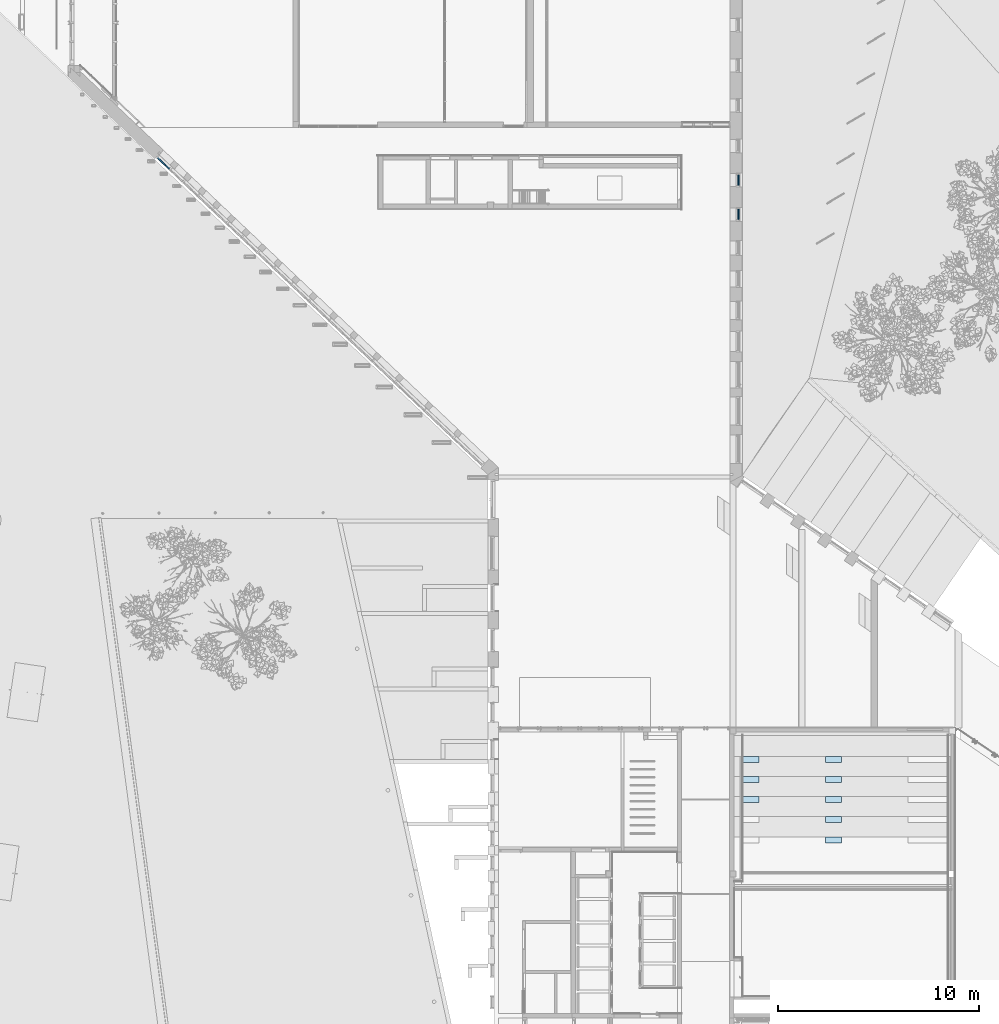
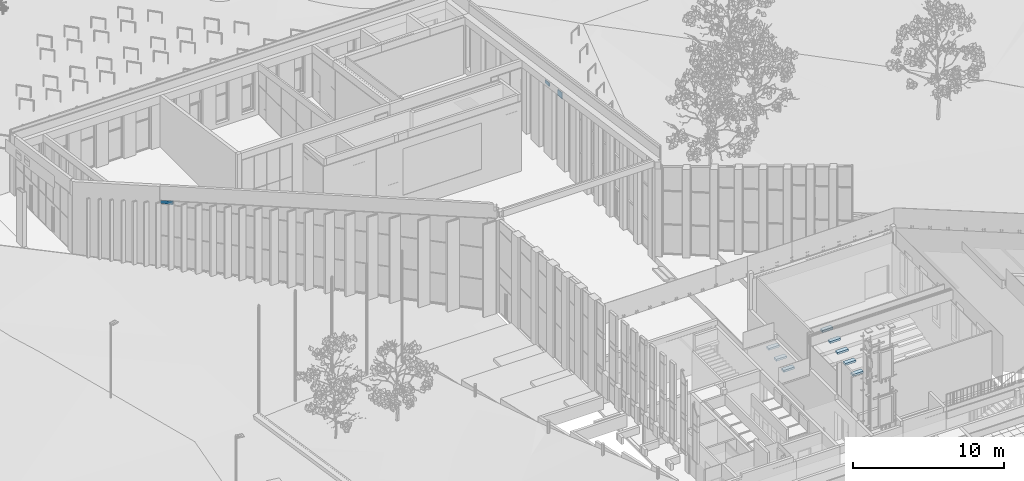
# One storey, part 108 of 246: 8 slabs, 3 plates, 3 elements without a shape of their own.
"""IFC2X3 building model written with IfcOpenShell, lengths in millimetres."""

from ifc_helpers import new_model, entity, si_unit, converted_unit, derived_unit, money_unit, direction, frame, origin_with_axes, place, context, subcontext, project, spatial, faceted_brep, material, type_object, element, aggregate, save


model = new_model("IFC2X3")

# Units and contexts
model_context = context("Model", 3, precision=0.01, world=origin_with_axes(), true_north=direction((0.0, 1.0)))
body_context = subcontext(model_context, "Body", "Model", "MODEL_VIEW")
ifc_project = project(units=[si_unit("LENGTHUNIT", "METRE", prefix="MILLI"), si_unit("AREAUNIT", "SQUARE_METRE"), si_unit("VOLUMEUNIT", "CUBIC_METRE"), converted_unit("PLANEANGLEUNIT", "DEGREE", entity("IfcPlaneAngleMeasure", 0.0174532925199), si_unit("PLANEANGLEUNIT", "RADIAN"), dimensions=[0, 0, 0, 0, 0, 0, 0]), si_unit("SOLIDANGLEUNIT", "STERADIAN"), money_unit("EUR"), converted_unit("TIMEUNIT", "Year", entity("IfcTimeMeasure", 31556926.0), si_unit("TIMEUNIT", "SECOND"), dimensions=[0, 0, 1, 0, 0, 0, 0]), si_unit("MASSUNIT", "GRAM", prefix="KILO"), si_unit("THERMODYNAMICTEMPERATUREUNIT", "DEGREE_CELSIUS"), si_unit("LUMINOUSINTENSITYUNIT", "LUMEN"), si_unit("ENERGYUNIT", "JOULE", prefix="MEGA"), derived_unit("THERMALCONDUCTANCEUNIT", [(si_unit("POWERUNIT", "WATT"), 1), (si_unit("LENGTHUNIT", "METRE"), -1), (si_unit("THERMODYNAMICTEMPERATUREUNIT", "KELVIN"), -1)]), derived_unit("SPECIFICHEATCAPACITYUNIT", [(si_unit("ENERGYUNIT", "JOULE"), 1), (si_unit("MASSUNIT", "GRAM", prefix="KILO"), -1), (si_unit("THERMODYNAMICTEMPERATUREUNIT", "KELVIN"), -1)]), derived_unit("MASSDENSITYUNIT", [(si_unit("MASSUNIT", "GRAM", prefix="KILO"), 1), (si_unit("VOLUMEUNIT", "CUBIC_METRE"), -1)])], contexts=[model_context])

# Site, building, storey
site_placement = place(None, origin_with_axes())
site = spatial("IfcSite", under=ifc_project, at=site_placement, Name="L.Koidula tn 11b", CompositionType="ELEMENT")
building_placement = place(site_placement, origin_with_axes())
building = spatial("IfcBuilding", under=site, at=building_placement, Name="Rakvere Riigigümnaasium", CompositionType="ELEMENT")
storey_placement = place(building_placement, origin_with_axes())
storey = spatial("IfcBuildingStorey", under=building, at=storey_placement, Name="1.korrus 0,00", CompositionType="ELEMENT", Elevation=0.0)

# Curtain wall, plate
curtain_wall_type = type_object("IfcCurtainWallType", Name="Curtain Wall Type", PredefinedType="NOTDEFINED")
curtain_wall_1_placement = place(storey_placement, frame((33997.0353268, 45217.6604975, 0.0), z_axis=(0.0, 0.0, 1.0), x_axis=(1.0, 0.0, 0.0)))
curtain_wall_1 = element("IfcCurtainWall", 1, at=curtain_wall_1_placement, inside=storey, type_object=curtain_wall_type, Name="KLF-02")
ifc_material_1 = material(Name="Klaaspakett 3x")
plate_type_1 = type_object("IfcPlateType", Name="Distinct Panel 851 x 319 x 54", PredefinedType="CURTAIN_PANEL")
plate_1_placement = place(curtain_wall_1_placement, frame((-15136.2986508, 14339.3362531, 5112.49779371), z_axis=(0.0, 0.0, 1.0), x_axis=(0.725960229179, -0.687736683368, 0.0)))
plate_1 = element("IfcPlate", 2, at=plate_1_placement, type_object=plate_type_1, material=ifc_material_1, Name="KLF-04-Klaasid", ObjectType="CURTAIN_PANEL", context=body_context, shape_type="Brep", body=[
    faceted_brep([(438.038389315, 27.0, 168.507753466), (438.038389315, -27.0, 168.507753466), (438.038389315, -27.0, -150.497476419), (438.038389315, 27.0, -150.497476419), (-413.038393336, 27.0, 84.5933319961), (-413.038393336, -27.0, 84.5933319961), (-413.038393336, -27.0, -150.497476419), (-413.038393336, 27.0, -150.497476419)], [[[0, 1, 2, 3]], [[4, 5, 1, 0]], [[1, 5, 6, 2]], [[3, 2, 6, 7]], [[0, 3, 7, 4]], [[7, 6, 5, 4]]]),
])
aggregate(curtain_wall_1, [plate_1])

curtain_wall_2_placement = place(storey_placement, frame((47433.9999935, 57020.45466, -7.96066081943e-05), z_axis=(0.0, 0.0, 1.0), x_axis=(1.0, 0.0, 0.0)))
curtain_wall_2 = element("IfcCurtainWall", 3, at=curtain_wall_2_placement, inside=storey, type_object=curtain_wall_type, Name="KLF-07-08")
plate_type_2 = type_object("IfcPlateType", Name="Distinct Panel 576 x 459 x 54", PredefinedType="CURTAIN_PANEL")
plate_2_placement = place(curtain_wall_2_placement, frame((0.0, 0.0, 5374.88988791), z_axis=(0.0, 0.0, 1.0), x_axis=(0.0, 1.0, 0.0)))
plate_2 = element("IfcPlate", 4, at=plate_2_placement, type_object=plate_type_2, material=ifc_material_1, Name="KLF-07-08-Klaasid", ObjectType="CURTAIN_PANEL", context=body_context, shape_type="Brep", body=[
    faceted_brep([(-287.999994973, 27.0, 278.520234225), (-287.999994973, -27.0, 278.520234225), (287.99999948, -27.0, 196.513148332), (287.99999948, 27.0, 196.513148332), (-287.999994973, 27.0, -262.889805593), (-287.999994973, -27.0, -262.889805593), (287.999989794, -27.0, -262.889805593), (287.999989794, 27.0, -262.889805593)], [[[0, 1, 2, 3]], [[4, 5, 1, 0]], [[1, 5, 6, 2]], [[3, 2, 6, 7]], [[0, 3, 7, 4]], [[7, 6, 5, 4]]]),
])
aggregate(curtain_wall_2, [plate_2])

curtain_wall_3_placement = place(storey_placement, frame((47433.9999935, 58720.4546292, -7.96830551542e-05), z_axis=(0.0, 0.0, 1.0), x_axis=(1.0, 0.0, 0.0)))
curtain_wall_3 = element("IfcCurtainWall", 5, at=curtain_wall_3_placement, inside=storey, type_object=curtain_wall_type, Name="KLF-07-09")
plate_type_3 = type_object("IfcPlateType", Name="Distinct Panel 576 x 217 x 54", PredefinedType="CURTAIN_PANEL")
plate_3_placement = place(curtain_wall_3_placement, frame((0.0, 3.91180350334e-05, 5253.87245895), z_axis=(0.0, 0.0, 1.0), x_axis=(0.0, 1.0, 0.0)))
plate_3 = element("IfcPlate", 6, at=plate_3_placement, type_object=plate_type_3, material=ifc_material_1, Name="KLF-07-09_Klaasid", ObjectType="CURTAIN_PANEL", context=body_context, shape_type="Brep", body=[
    faceted_brep([(-288.000001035, 27.0, 157.502811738), (-288.000001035, -27.0, 157.502811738), (287.999987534, -27.0, 75.4957142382), (287.999987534, 27.0, 75.4957142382), (-287.99999135, 27.0, -141.872376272), (-287.99999135, -27.0, -141.872376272), (288.000006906, -27.0, -141.872376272), (288.000006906, 27.0, -141.872376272)], [[[0, 1, 2, 3]], [[4, 5, 1, 0]], [[1, 5, 6, 2]], [[3, 2, 6, 7]], [[0, 3, 7, 4]], [[7, 6, 5, 4]]]),
])
aggregate(curtain_wall_3, [plate_3])

# Slabs
ifc_material_2 = material(Name="Betoon")
slab_type = type_object("IfcSlabType", Name="Betoon 160", PredefinedType="NOTDEFINED")
for number, where, z_axis, x_axis in (
    (7, (52560.5793131, 25795.4561877, 139.5), (0.0, 0.0, 1.0), (1.0, 0.0, 0.0)),
    (8, (52560.5793131, 26795.4555287, 418.993831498), (0.0, 0.0, 1.0), (1.0, 0.0, 0.0)),
):
    element("IfcSlab", number, at=place(storey_placement, frame(where, z_axis=z_axis, x_axis=x_axis)), inside=storey, type_object=slab_type, material=ifc_material_2, Name="Põrand pinnasel", PredefinedType="NOTDEFINED", context=body_context, shape_type="Brep", body=[
        faceted_brep([(0.0, 0.0, 0.0), (0.0, 0.0, -160.0), (0.0, 300.0, -160.0), (0.0, 300.0, 0.0), (-810.0, 0.0, 0.0), (-810.0, 0.0, -160.0), (-810.0, 300.0, -160.0), (-810.0, 300.0, 0.0)], [[[0, 1, 2, 3]], [[4, 5, 1, 0]], [[2, 1, 5, 6]], [[3, 2, 6, 7]], [[4, 0, 3, 7]], [[7, 6, 5, 4]]]),
    ])
slab_1_placement = place(storey_placement, frame((48455.5793131, 27795.4555287, 697.993831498), z_axis=(0.0, 0.0, 1.0), x_axis=(1.0, 0.0, 0.0)))
element("IfcSlab", 9, at=slab_1_placement, inside=storey, type_object=slab_type, material=ifc_material_2, Name="Põrand pinnasel", PredefinedType="NOTDEFINED", context=body_context, shape_type="Brep", body=[
    faceted_brep([(0.0, 0.0, 0.0), (0.0, 0.0, -160.0), (0.0, 300.0, -160.0), (0.0, 300.0, 0.0), (-810.001816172, 0.0, 0.0), (-810.001816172, 0.0, -160.0), (-810.001816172, 300.0, -160.0), (-810.001816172, 300.0, 0.0)], [[[0, 1, 2, 3]], [[4, 5, 1, 0]], [[2, 1, 5, 6]], [[3, 2, 6, 7]], [[4, 0, 3, 7]], [[7, 6, 5, 4]]]),
])
slab_2_placement = place(storey_placement, frame((52560.5793131, 27795.4555287, 697.993831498), z_axis=(0.0, 0.0, 1.0), x_axis=(1.0, 0.0, 0.0)))
element("IfcSlab", 10, at=slab_2_placement, inside=storey, type_object=slab_type, material=ifc_material_2, Name="Põrand pinnasel", PredefinedType="NOTDEFINED", context=body_context, shape_type="Brep", body=[
    faceted_brep([(0.0, 0.0, 0.0), (0.0, 0.0, -160.0), (0.0, 300.0, -160.0), (0.0, 300.0, 0.0), (-810.0, 0.0, 0.0), (-810.0, 0.0, -160.0), (-810.0, 300.0, -160.0), (-810.0, 300.0, 0.0)], [[[0, 1, 2, 3]], [[4, 5, 1, 0]], [[2, 1, 5, 6]], [[3, 2, 6, 7]], [[4, 0, 3, 7]], [[7, 6, 5, 4]]]),
])
slab_3_placement = place(storey_placement, frame((48455.5793131, 28795.4555287, 976.993831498), z_axis=(0.0, 0.0, 1.0), x_axis=(1.0, 0.0, 0.0)))
element("IfcSlab", 11, at=slab_3_placement, inside=storey, type_object=slab_type, material=ifc_material_2, Name="Põrand pinnasel", PredefinedType="NOTDEFINED", context=body_context, shape_type="Brep", body=[
    faceted_brep([(0.0, 0.0, 0.0), (0.0, 0.0, -160.0), (0.0, 300.0, -160.0), (0.0, 300.0, 0.0), (-810.036588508, 0.0, 0.0), (-810.036588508, 0.0, -160.0), (-810.036588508, 300.0, -160.0), (-810.036588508, 300.0, 0.0)], [[[0, 1, 2, 3]], [[4, 5, 1, 0]], [[2, 1, 5, 6]], [[3, 2, 6, 7]], [[4, 0, 3, 7]], [[7, 6, 5, 4]]]),
])
slab_4_placement = place(storey_placement, frame((52560.5793131, 28795.4555287, 976.993831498), z_axis=(0.0, 0.0, 1.0), x_axis=(1.0, 0.0, 0.0)))
element("IfcSlab", 12, at=slab_4_placement, inside=storey, type_object=slab_type, material=ifc_material_2, Name="Põrand pinnasel", PredefinedType="NOTDEFINED", context=body_context, shape_type="Brep", body=[
    faceted_brep([(0.0, 0.0, 0.0), (0.0, 0.0, -160.0), (0.0, 300.0, -160.0), (0.0, 300.0, 0.0), (-810.0, 0.0, 0.0), (-810.0, 0.0, -160.0), (-810.0, 300.0, -160.0), (-810.0, 300.0, 0.0)], [[[0, 1, 2, 3]], [[4, 5, 1, 0]], [[2, 1, 5, 6]], [[3, 2, 6, 7]], [[4, 0, 3, 7]], [[7, 6, 5, 4]]]),
])
slab_5_placement = place(storey_placement, frame((48455.5793131, 29795.3091965, 1255.9938315), z_axis=(0.0, 0.0, 1.0), x_axis=(1.0, 0.0, 0.0)))
element("IfcSlab", 13, at=slab_5_placement, inside=storey, type_object=slab_type, material=ifc_material_2, Name="Põrand pinnasel", PredefinedType="NOTDEFINED", context=body_context, shape_type="Brep", body=[
    faceted_brep([(0.0, 0.0, 0.0), (0.0, 0.0, -160.0), (0.0, 300.0, -160.0), (0.0, 300.0, 0.0), (-810.001816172, 0.0, 0.0), (-810.001816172, 0.0, -160.0), (-810.001816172, 300.0, -160.0), (-810.001816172, 300.0, 0.0)], [[[0, 1, 2, 3]], [[4, 5, 1, 0]], [[2, 1, 5, 6]], [[3, 2, 6, 7]], [[4, 0, 3, 7]], [[7, 6, 5, 4]]]),
])
slab_6_placement = place(storey_placement, frame((52560.5793131, 29795.3091965, 1255.9938315), z_axis=(0.0, 0.0, 1.0), x_axis=(1.0, 0.0, 0.0)))
element("IfcSlab", 14, at=slab_6_placement, inside=storey, type_object=slab_type, material=ifc_material_2, Name="Põrand pinnasel", PredefinedType="NOTDEFINED", context=body_context, shape_type="Brep", body=[
    faceted_brep([(0.0, 0.0, 0.0), (0.0, 0.0, -160.0), (0.0, 300.0, -160.0), (0.0, 300.0, 0.0), (-810.0, 0.0, 0.0), (-810.0, 0.0, -160.0), (-810.0, 300.0, -160.0), (-810.0, 300.0, 0.0)], [[[0, 1, 2, 3]], [[4, 5, 1, 0]], [[2, 1, 5, 6]], [[3, 2, 6, 7]], [[4, 0, 3, 7]], [[7, 6, 5, 4]]]),
])

save(model, "model.ifc")
